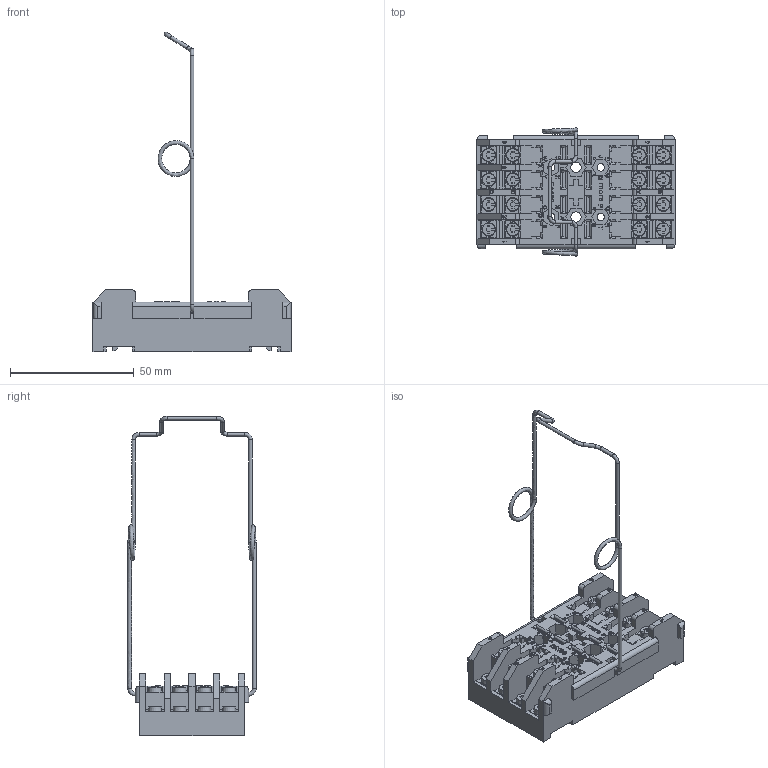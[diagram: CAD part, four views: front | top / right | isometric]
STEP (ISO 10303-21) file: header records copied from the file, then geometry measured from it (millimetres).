
FILE_DESCRIPTION((''),'2;1');
FILE_NAME('Q:\Bibliothèque 3D\Assemblage embase\Ea103\EA103-B.stp','2010-10-11T17:53:33',('cg'),(''),'Autodesk Inventor 2010','Autodesk Inventor 2010','');
FILE_SCHEMA(('AUTOMOTIVE_DESIGN { 1 0 10303 214 1 1 1 1 }'));
Length unit declared in the file: millimetre
Products named in the file (9): EA103-B; EA103; EA103_B400 PIECE1; Vis imperdable EA103; VIS IMPERDABLE 927210; RONDELLE IMPERDABLE; 926851_bibliothèque; 927205_bibliothèque; 906654
Assembly tree (23 placements, depth 4):
  EA103-B
    EA103
      EA103_B400 PIECE1
      Vis imperdable EA103  x16
        VIS IMPERDABLE 927210
        RONDELLE IMPERDABLE
      926851_bibliothèque
        927205_bibliothèque
    906654
Bounding box: 80 x 51.8 x 129 mm (x, y, z)
Volume: 51600.8 mm3; surface area: 36279.2 mm2
Topology: 35 solids, 39 shells, 2769 faces, 7616 edges, 5027 vertices
Faces by surface type: plane 2033, bspline 556, cylinder 160, cone 16, torus 4
Full cylindrical faces by diameter (mm): 1.5 x6, 2 x8, 2.5 x32, 3 x20, 3.8 x4, 3.9 x8, 4.2 x2, 6.1 x1, 6.15 x2
Entity records: 62187 total; most frequent: CARTESIAN_POINT 16114, ORIENTED_EDGE 10310, DIRECTION 7742, EDGE_CURVE 5155, VECTOR 4398, LINE 4398, VERTEX_POINT 3437, EDGE_LOOP 2096
